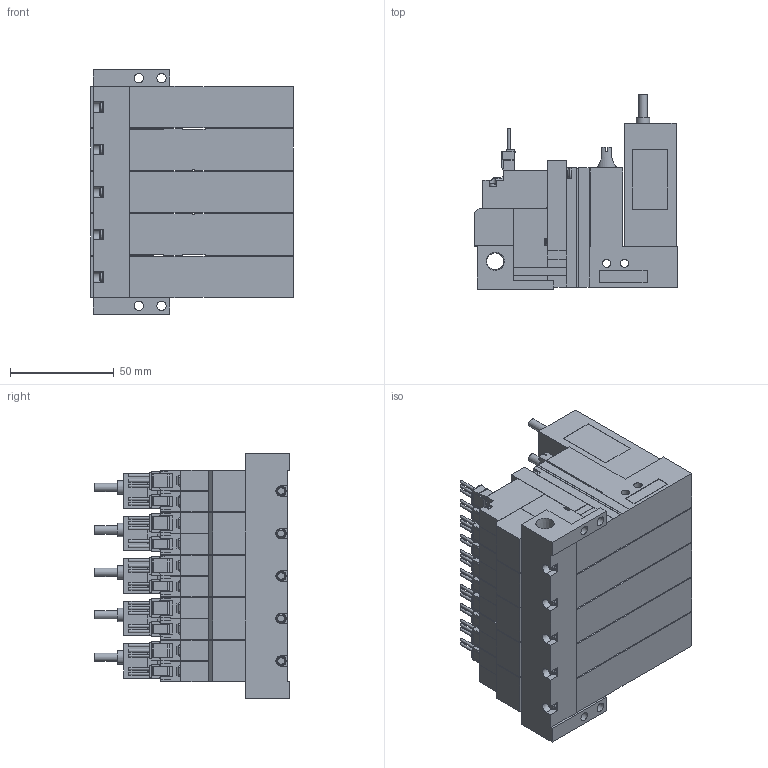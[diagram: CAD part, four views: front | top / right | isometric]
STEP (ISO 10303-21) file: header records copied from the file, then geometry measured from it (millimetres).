
FILE_DESCRIPTION(('STEP AP203'),'1');
FILE_NAME('VG_VGPLC5WLR505.stp','2025-02-19T01:13:56',(' '),(' '),'Spatial InterOp 3D',' ',' ');
FILE_SCHEMA(('CONFIG_CONTROL_DESIGN'));
Length unit declared in the file: millimetre
Products named in the file (5): BMC22M※※※※VG_VGPLC5WLR505; Solenoid valve W; Pressure sensor VGLC; Unit LC; Base MR50R
Assembly tree (16 placements, depth 2):
  BMC22M※※※※VG_VGPLC5WLR505
    Solenoid valve W  x5
    Pressure sensor VGLC  x5
    Unit LC  x5
    Base MR50R
Bounding box: 97.6 x 94 x 118 mm (x, y, z)
Volume: 564722.2 mm3; surface area: 145279.5 mm2
Topology: 16 solids, 16 shells, 2001 faces, 5354 edges, 3530 vertices
Faces by surface type: plane 1694, cylinder 245, cone 37, torus 25
Full cylindrical faces by diameter (mm): 1.4 x25, 2.5 x15, 3 x20, 3.5 x20, 3.6 x5, 4 x30, 4.134 x5, 4.5 x4, 5.2 x5, 6 x5, 6.5 x5, 6.6 x5, 8.279 x1
Entity records: 14822 total; most frequent: CARTESIAN_POINT 2837, DIRECTION 2359, ORIENTED_EDGE 2314, EDGE_CURVE 1157, LINE 937, VECTOR 937, VERTEX_POINT 808, AXIS2_PLACEMENT_3D 711
